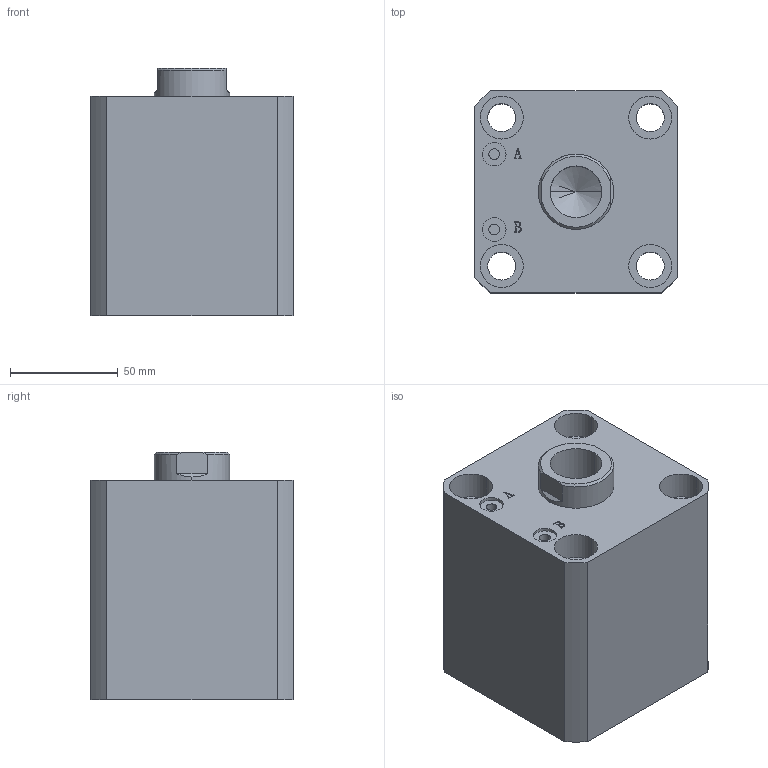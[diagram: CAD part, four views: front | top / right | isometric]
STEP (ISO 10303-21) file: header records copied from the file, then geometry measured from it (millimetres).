
FILE_DESCRIPTION (( 'STEP AP203' ), '1' );
FILE_NAME ('HTB-SDMA63-35N.STEP', '2019-10-08T01:03:29', ( '微软用户' ), ( '微软中国' ), 'SwSTEP 2.0', 'SolidWorks 2012', '' );
FILE_SCHEMA (( 'CONFIG_CONTROL_DESIGN' ));
Length unit declared in the file: millimetre
Products named in the file (3): HTB-SDMA63-35N; HTB-SDMA63-35N活塞杆; HTB-SDMA63-35掛极
Assembly tree (2 placements, depth 2):
  HTB-SDMA63-35N
    HTB-SDMA63-35掛极
    HTB-SDMA63-35N活塞杆
Bounding box: 94 x 94 x 115 mm (x, y, z)
Volume: 735288.8 mm3; surface area: 112480.8 mm2
Topology: 2 solids, 2 shells, 137 faces, 331 edges, 217 vertices
Faces by surface type: plane 65, cylinder 46, bspline 16, torus 6, cone 4
Entity records: 5070 total; most frequent: CARTESIAN_POINT 1576, ORIENTED_EDGE 658, DIRECTION 647, EDGE_CURVE 329, AXIS2_PLACEMENT_3D 232, VERTEX_POINT 217, LINE 183, VECTOR 183
